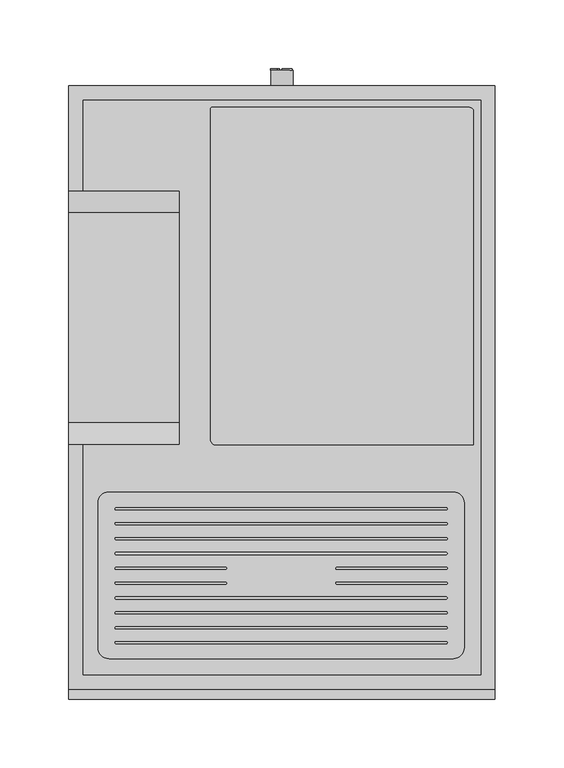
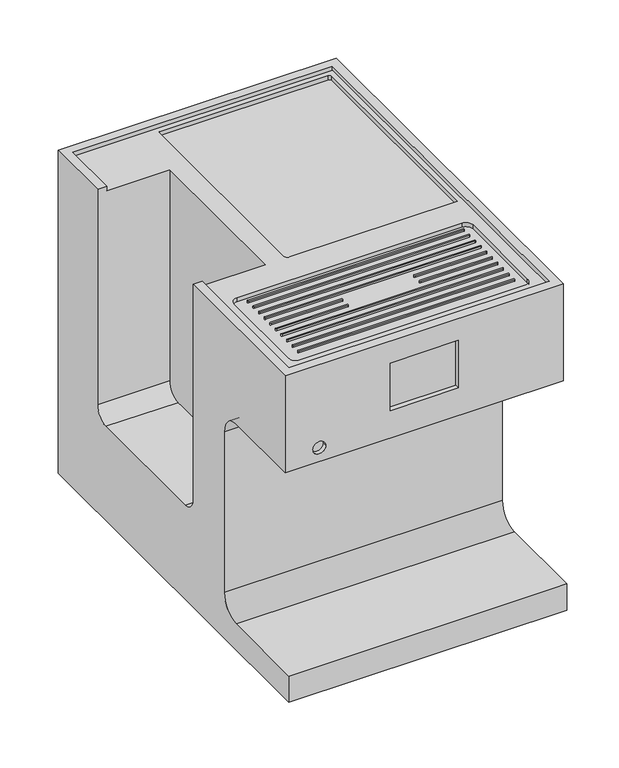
"""IFC4 building model written with IfcOpenShell, lengths in millimetres: proxy geometry, 11025070_NER_CM7350_OBSW : 29735020_NER_11025070_CM7350_OBSW."""

from ifc_helpers import new_model, si_unit, point, frame, frame_2d, origin, origin_with_axes, place, context, project, spatial, polyline, circle_curve, trimmed, segment, composite_curve, outline, extrude, source, transform, mapped, element, save
from ifc_brep_helpers import plane_surface, revolved_surface, advanced_brep


def specialty_equipment_0da02e5f(model_context):
    return source(origin(), model_context, "Body", "SolidModel", [
        advanced_brep(
        [(155.0, -438.3821149, 397.0), (155.0, -438.3821149, 282.4328861), (155.0, -343.8005135, 282.4328861), (155.0, -320.8005135, 259.4328861), (155.0, -320.8005135, 70.3993974), (155.0, -343.8005135, 47.3993974), (155.0, -445.5820312, 47.3993974), (155.0, -445.5820312, 16.3993974), (155.0, -297.5804642, 16.3993974), (155.0, -297.5804642, 391.7036314), (155.0, -295.1106834, 391.7036314), (155.0, -295.1106834, 16.3993974), (155.0, -18.5962654, 16.3993974), (155.0, -18.5962654, 391.7036314), (155.0, -16.6439936, 391.7036314), (155.0, -16.6439936, 16.3993974), (155.0, 0.0, 16.3993974), (155.0, 0.0, 397.0), (155.0, -274.1723402, 377.3844175), (155.0, -40.3820038, 377.3844175), (155.0, -40.3820038, 370.415576), (155.0, -274.1723402, 370.415576), (-155.0, 0.0, 397.0), (-155.0, 0.0, 16.3993974), (-155.0, -445.5820312, 16.3993974), (-155.0, -445.5820312, 47.3993974), (-155.0, -343.8005135, 47.3993974), (-155.0, -320.8005135, 70.3993974), (-155.0, -320.8005135, 259.4328861), (-155.0, -343.8005135, 282.4328861), (-155.0, -438.3821149, 282.4328861), (-155.0, -438.3821149, 397.0), (-155.0, -260.8993144, 397.0), (-155.0, -260.8993144, 143.1722611), (-155.0, -244.8993144, 127.1722611), (-155.0, -92.0598421, 127.1722611), (-155.0, -76.0598421, 143.1722611), (-155.0, -76.0598421, 397.0), (-72.7464893, 0.0, 16.3993974), (-72.7464893, -6.5820312, 16.3993974), (-71.7464893, -6.5820312, 16.3993974), (-71.7464893, 0.0, 16.3993974), (71.7464893, 0.0, 16.3993974), (71.7464893, -6.5820312, 16.3993974), (72.7464893, -6.5820312, 16.3993974), (72.7464893, 0.0, 16.3993974), (148.8000031, -16.6439936, 16.3993974), (148.8000031, -18.5962654, 16.3993974), (148.8000031, -295.1106834, 16.3993974), (148.8000031, -297.5804642, 16.3993974), (72.7464893, 0.0, 286.3395521), (-72.7464893, 0.0, 286.3395521), (-71.7464893, 0.0, 285.3395521), (71.7464893, 0.0, 285.3395521), (-67.2299957, 0.0, 280.3997633), (-67.2299957, 0.0, 242.6997663), (67.1699982, 0.0, 242.6997663), (67.1699982, 0.0, 280.3997633), (66.1699982, 0.0, 279.3997633), (66.1699982, 0.0, 243.6997663), (-66.2299957, 0.0, 243.6997663), (-66.2299957, 0.0, 279.3997633), (-145.0, -76.0598421, 397.0), (-145.0, -9.9540739, 397.0), (145.0, -9.9540739, 397.0), (145.0, -428.3821149, 397.0), (-145.0, -428.3821149, 397.0), (-145.0, -260.8993144, 397.0), (-109.871069, -438.3821149, 298.9499998), (-124.1509726, -438.3821149, 298.9499998), (-38.0, -438.3821149, 371.0), (38.0, -438.3821149, 371.0), (38.0, -438.3821149, 315.0), (-38.0, -438.3821149, 315.0), (-145.0, -428.3821149, 392.0), (145.0, -428.3821149, 392.0), (145.0, -9.9540739, 392.0), (-145.0, -9.9540739, 392.0), (-145.0, -76.0598421, 392.0), (-74.3005066, -76.0598421, 392.0), (-74.3005066, -260.8993144, 392.0), (-145.0, -260.8993144, 392.0), (-125.7733765, -295.1106834, 392.0), (124.609314, -295.1106834, 392.0), (132.609314, -303.1106834, 392.0), (132.609314, -408.1485367, 392.0), (124.609314, -416.1485367, 392.0), (-125.7733765, -416.1485367, 392.0), (-133.7733765, -408.1485367, 392.0), (-133.7733765, -303.1106834, 392.0), (-50.8837091, -15.6554565, 392.0), (136.3445587, -15.6554565, 392.0), (139.3445587, -18.6554565, 392.0), (139.3445587, -260.9074012, 392.0), (-47.8837091, -260.9074012, 392.0), (-51.8837091, -256.9074012, 392.0), (-51.8837091, -16.6554565, 392.0), (124.609314, -295.1106834, 387.0), (-125.7733765, -295.1106834, 387.0), (-133.7733765, -303.1106834, 387.0), (-133.7733765, -408.1485367, 387.0), (-125.7733765, -416.1485367, 387.0), (124.609314, -416.1485367, 387.0), (132.609314, -408.1485367, 387.0), (132.609314, -303.1106834, 387.0), (-67.2299957, -1.4311593, 280.3997633), (67.1699982, -1.4311593, 280.3997633), (67.1699982, -1.4311593, 242.6997663), (-67.2299957, -1.4311593, 242.6997663), (66.1699982, -1.4311593, 279.3997633), (-66.2299957, -1.4311593, 279.3997633), (-66.2299957, -1.4311593, 243.6997663), (66.1699982, -1.4311593, 243.6997663), (-74.3005066, -76.0598421, 143.1722611), (-74.3005066, -92.0598421, 127.1722611), (-74.3005066, -244.8993144, 127.1722611), (-74.3005066, -260.8993144, 143.1722611), (-124.1509726, -433.3821149, 298.9499998), (-109.871069, -433.3821149, 298.9499998), (136.3445587, -15.6554565, 387.0), (-50.8837091, -15.6554565, 387.0), (-51.8837091, -16.6554565, 387.0), (-51.8837091, -256.9074012, 387.0), (-47.8837091, -260.9074012, 387.0), (139.3445587, -260.9074012, 387.0), (139.3445587, -18.6554565, 387.0), (-72.7464893, -6.5820312, 286.3395521), (72.7464893, -6.5820312, 286.3395521), (71.7464893, -6.5820312, 285.3395521), (-71.7464893, -6.5820312, 285.3395521), (147.1000061, -40.3820038, 377.3844175), (147.1000061, -274.1723402, 377.3844175), (147.1000061, -274.1723402, 370.415576), (147.1000061, -40.3820038, 370.415576), (148.8000031, -295.1106834, 391.7036314), (148.8000031, -297.5804642, 391.7036314), (148.8000031, -16.6439936, 391.7036314), (148.8000031, -18.5962654, 391.7036314), (38.0, -433.3821149, 315.0), (-38.0, -433.3821149, 315.0), (-38.0, -433.3821149, 371.0), (38.0, -433.3821149, 371.0)],
        [
            (0, 1),
            (1, 2),
            (2, 3, circle_curve(frame((155.0, -343.8005135, 259.4328861), z_axis=(-1.0, 0.0, 0.0), x_axis=(0.0, 1.0, 0.0)), 23.0)),
            (3, 4),
            (4, 5, circle_curve(frame((155.0, -343.8005135, 70.3993974), z_axis=(-1.0, 0.0, 0.0), x_axis=(0.0, 1.0, 0.0)), 23.0)),
            (5, 6),
            (6, 7),
            (7, 8),
            (8, 9),
            (9, 10),
            (10, 11),
            (11, 12),
            (12, 13),
            (13, 14),
            (14, 15),
            (15, 16),
            (16, 17),
            (17, 0),
            (18, 19),
            (19, 20),
            (20, 21),
            (21, 18),
            (22, 23),
            (23, 24),
            (24, 25),
            (25, 26),
            (26, 27, circle_curve(frame((-155.0, -343.8005135, 70.3993974), z_axis=(1.0, 0.0, 0.0), x_axis=(0.0, 1.0, 0.0)), 23.0)),
            (27, 28),
            (28, 29, circle_curve(frame((-155.0, -343.8005135, 259.4328861), z_axis=(1.0, 0.0, 0.0), x_axis=(0.0, 1.0, 0.0)), 23.0)),
            (29, 30),
            (30, 31),
            (31, 32),
            (32, 33),
            (33, 34, circle_curve(frame((-155.0, -244.8993144, 143.1722611), z_axis=(1.0, 0.0, 0.0), x_axis=(0.0, 1.0, 0.0)), 16.0)),
            (34, 35),
            (35, 36, circle_curve(frame((-155.0, -92.0598421, 143.1722611), z_axis=(1.0, 0.0, 0.0), x_axis=(0.0, 1.0, 0.0)), 16.0)),
            (36, 37),
            (37, 22),
            (23, 38),
            (38, 39),
            (39, 40),
            (40, 41),
            (41, 42),
            (42, 43),
            (43, 44),
            (44, 45),
            (45, 16),
            (15, 46),
            (46, 47),
            (47, 12),
            (11, 48),
            (48, 49),
            (49, 8),
            (7, 24),
            (45, 50),
            (50, 51),
            (51, 38),
            (22, 17),
            (41, 52),
            (52, 53),
            (53, 42),
            (54, 55),
            (55, 56),
            (56, 57),
            (57, 54),
            (58, 59),
            (59, 60),
            (60, 61),
            (61, 58),
            (37, 62),
            (62, 63),
            (63, 64),
            (64, 65),
            (65, 66),
            (66, 67),
            (67, 32),
            (31, 0),
            (30, 1),
            (68, 69, circle_curve(frame((-117.0110208, -438.3821149, 298.9499998), z_axis=(0.0, 1.0, 0.0), x_axis=(1.0, 0.0, 0.0)), 7.1399518)),
            (69, 68, circle_curve(frame((-117.0110208, -438.3821149, 298.9499998), z_axis=(0.0, 1.0, 0.0), x_axis=(1.0, 0.0, 0.0)), 7.1399518)),
            (70, 71),
            (71, 72),
            (72, 73),
            (73, 70),
            (29, 2),
            (28, 3),
            (27, 4),
            (26, 5),
            (25, 6),
            (74, 75),
            (75, 76),
            (76, 77),
            (77, 78),
            (78, 79),
            (79, 80),
            (80, 81),
            (81, 74),
            (82, 83),
            (83, 84, circle_curve(frame((124.609314, -303.1106834, 392.0), z_axis=(0.0, 0.0, -1.0), x_axis=(1.0, 0.0, 0.0)), 8.0)),
            (84, 85),
            (85, 86, circle_curve(frame((124.609314, -408.1485367, 392.0), z_axis=(0.0, 0.0, -1.0), x_axis=(1.0, 0.0, 0.0)), 8.0)),
            (86, 87),
            (87, 88, circle_curve(frame((-125.7733765, -408.1485367, 392.0), z_axis=(0.0, 0.0, -1.0), x_axis=(1.0, 0.0, 0.0)), 8.0)),
            (88, 89),
            (89, 82, circle_curve(frame((-125.7733765, -303.1106834, 392.0), z_axis=(0.0, 0.0, -1.0), x_axis=(1.0, 0.0, 0.0)), 8.0)),
            (90, 91),
            (91, 92, circle_curve(frame((136.3445587, -18.6554565, 392.0), z_axis=(0.0, 0.0, -1.0), x_axis=(1.0, 0.0, 0.0)), 3.0)),
            (92, 93),
            (93, 94),
            (94, 95, circle_curve(frame((-47.8837091, -256.9074012, 392.0), z_axis=(0.0, 0.0, -1.0), x_axis=(1.0, 0.0, 0.0)), 4.0)),
            (95, 96),
            (96, 90, circle_curve(frame((-50.8837091, -16.6554565, 392.0), z_axis=(0.0, 0.0, -1.0), x_axis=(1.0, 0.0, 0.0)), 1.0)),
            (74, 66),
            (65, 75),
            (64, 76),
            (63, 77),
            (81, 67),
            (62, 78),
            (97, 98),
            (98, 99, circle_curve(frame((-125.7733765, -303.1106834, 387.0), z_axis=(0.0, 0.0, 1.0), x_axis=(1.0, 0.0, 0.0)), 8.0)),
            (99, 100),
            (100, 101, circle_curve(frame((-125.7733765, -408.1485367, 387.0), z_axis=(0.0, 0.0, 1.0), x_axis=(1.0, 0.0, 0.0)), 8.0)),
            (101, 102),
            (102, 103, circle_curve(frame((124.609314, -408.1485367, 387.0), z_axis=(0.0, 0.0, 1.0), x_axis=(1.0, 0.0, 0.0)), 8.0)),
            (103, 104),
            (104, 97, circle_curve(frame((124.609314, -303.1106834, 387.0), z_axis=(0.0, 0.0, 1.0), x_axis=(1.0, 0.0, 0.0)), 8.0)),
            (97, 83),
            (82, 98),
            (89, 99),
            (88, 100),
            (87, 101),
            (86, 102),
            (85, 103),
            (84, 104),
            (105, 106),
            (106, 107),
            (107, 108),
            (108, 105),
            (109, 110),
            (110, 111),
            (111, 112),
            (112, 109),
            (108, 55),
            (54, 105),
            (107, 56),
            (106, 57),
            (113, 114, circle_curve(frame((-74.3005066, -92.0598421, 143.1722611), z_axis=(-1.0, 0.0, 0.0), x_axis=(0.0, 1.0, 0.0)), 16.0)),
            (114, 115),
            (115, 116, circle_curve(frame((-74.3005066, -244.8993144, 143.1722611), z_axis=(-1.0, 0.0, 0.0), x_axis=(0.0, 1.0, 0.0)), 16.0)),
            (116, 80),
            (79, 113),
            (116, 33),
            (115, 34),
            (114, 35),
            (113, 36),
            (117, 118, circle_curve(frame((-117.0110208, -433.3821149, 298.9499998), z_axis=(0.0, -1.0, 0.0), x_axis=(1.0, 0.0, 0.0)), 7.1399518)),
            (118, 117, circle_curve(frame((-117.0110208, -433.3821149, 298.9499998), z_axis=(0.0, -1.0, 0.0), x_axis=(1.0, 0.0, 0.0)), 7.1399518)),
            (117, 69),
            (68, 118),
            (119, 120),
            (120, 121, circle_curve(frame((-50.8837091, -16.6554565, 387.0), z_axis=(0.0, 0.0, 1.0), x_axis=(1.0, 0.0, 0.0)), 1.0)),
            (121, 122),
            (122, 123, circle_curve(frame((-47.8837091, -256.9074012, 387.0), z_axis=(0.0, 0.0, 1.0), x_axis=(1.0, 0.0, 0.0)), 4.0)),
            (123, 124),
            (124, 125),
            (125, 119, circle_curve(frame((136.3445587, -18.6554565, 387.0), z_axis=(0.0, 0.0, 1.0), x_axis=(1.0, 0.0, 0.0)), 3.0)),
            (119, 91),
            (90, 120),
            (96, 121),
            (95, 122),
            (94, 123),
            (93, 124),
            (92, 125),
            (126, 127),
            (127, 44),
            (43, 128),
            (128, 129),
            (129, 40),
            (39, 126),
            (51, 126),
            (129, 52),
            (128, 53),
            (127, 50),
            (112, 59),
            (58, 109),
            (111, 60),
            (110, 61),
            (130, 131),
            (131, 132),
            (132, 133),
            (133, 130),
            (130, 19),
            (18, 131),
            (21, 132),
            (20, 133),
            (134, 135),
            (135, 49),
            (48, 134),
            (46, 136),
            (136, 137),
            (137, 47),
            (134, 10),
            (9, 135),
            (14, 136),
            (13, 137),
            (138, 139),
            (139, 73),
            (72, 138),
            (140, 141),
            (141, 71),
            (70, 140),
            (139, 140),
            (141, 138),
        ],
        [
            plane_surface(frame((155.0, -438.3821149, 397.0), z_axis=(1.0, 0.0, 0.0), x_axis=(0.0, 0.0, -1.0))),
            plane_surface(frame((-155.0, -438.3821149, 397.0), z_axis=(-1.0, 0.0, 0.0), x_axis=(0.0, 0.0, 1.0))),
            plane_surface(frame((155.0, -445.5820312, 16.3993974), z_axis=(0.0, 0.0, -1.0), x_axis=(-1.0, 0.0, 0.0))),
            plane_surface(frame((155.0, 0.0, 16.3993974), z_axis=(0.0, 1.0, 0.0), x_axis=(-1.0, 0.0, 0.0))),
            plane_surface(frame((155.0, 0.0, 397.0), z_axis=(0.0, 0.0, 1.0), x_axis=(-1.0, 0.0, 0.0))),
            plane_surface(frame((155.0, -438.3821149, 397.0), z_axis=(0.0, -1.0, 0.0), x_axis=(-1.0, 0.0, 0.0))),
            plane_surface(frame((155.0, -438.3821149, 282.4328861), z_axis=(0.0, 0.0, -1.0), x_axis=(-1.0, 0.0, 0.0))),
            revolved_surface(polyline([(-155.0, -320.8005135, 259.4328861), (155.0, -320.8005135, 259.4328861)]), (-155.0, -343.8005135, 259.4328861), (-1.0, 0.0, 0.0)),
            plane_surface(frame((155.0, -320.8005135, 259.4328861), z_axis=(0.0, -1.0, 0.0), x_axis=(-1.0, 0.0, 0.0))),
            revolved_surface(polyline([(-155.0, -320.8005135, 70.3993974), (155.0, -320.8005135, 70.3993974)]), (-155.0, -343.8005135, 70.3993974), (-1.0, 0.0, 0.0)),
            plane_surface(frame((155.0, -343.8005135, 47.3993974), z_axis=(0.0, 0.0, 1.0), x_axis=(-1.0, 0.0, 0.0))),
            plane_surface(frame((155.0, -445.5820312, 47.3993974), z_axis=(0.0, -1.0, 0.0), x_axis=(-1.0, 0.0, 0.0))),
            plane_surface(frame((149.1561824, -428.3821149, 392.0), z_axis=(0.0, 0.0, 1.0), x_axis=(-1.0, 0.0, 0.0))),
            plane_surface(frame((-145.0, -428.3821149, 397.0), z_axis=(0.0, 1.0, 0.0), x_axis=(0.0, 0.0, -1.0))),
            plane_surface(frame((145.0, -428.3821149, 397.0), z_axis=(-1.0, 0.0, 0.0), x_axis=(0.0, 0.0, -1.0))),
            plane_surface(frame((145.0, -9.9540739, 397.0), z_axis=(0.0, -1.0, 0.0), x_axis=(0.0, 0.0, -1.0))),
            plane_surface(frame((-145.0, -9.9540739, 397.0), z_axis=(1.0, 0.0, 0.0), x_axis=(0.0, 0.0, -1.0))),
            plane_surface(frame((-131.2630187, -295.1106834, 387.0), z_axis=(0.0, 0.0, 1.0), x_axis=(1.0, 0.0, 0.0))),
            plane_surface(frame((124.609314, -295.1106834, 392.0), z_axis=(0.0, -1.0, 0.0), x_axis=(0.0, 0.0, -1.0))),
            revolved_surface(polyline([(-117.7733765, -303.1106834, 392.0), (-117.7733765, -303.1106834, 387.0)]), (-125.7733765, -303.1106834, 387.0), (0.0, 0.0, 1.0)),
            plane_surface(frame((-133.7733765, -303.1106834, 392.0), z_axis=(1.0, 0.0, 0.0), x_axis=(0.0, 0.0, -1.0))),
            revolved_surface(polyline([(-117.7733765, -408.1485367, 392.0), (-117.7733765, -408.1485367, 387.0)]), (-125.7733765, -408.1485367, 387.0), (0.0, 0.0, 1.0)),
            plane_surface(frame((-125.7733765, -416.1485367, 392.0), z_axis=(0.0, 1.0, 0.0), x_axis=(0.0, 0.0, -1.0))),
            revolved_surface(polyline([(132.60931399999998, -408.1485367, 392.0), (132.60931399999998, -408.1485367, 387.0)]), (124.609314, -408.1485367, 387.0), (0.0, 0.0, 1.0)),
            plane_surface(frame((132.609314, -408.1485367, 392.0), z_axis=(-1.0, 0.0, 0.0), x_axis=(0.0, 0.0, -1.0))),
            revolved_surface(polyline([(132.60931399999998, -303.1106834, 392.0), (132.60931399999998, -303.1106834, 387.0)]), (124.609314, -303.1106834, 387.0), (0.0, 0.0, 1.0)),
            plane_surface(frame((-67.2299957, -1.4311593, 235.6799621), z_axis=(0.0, 1.0, 0.0), x_axis=(0.0, 0.0, -1.0))),
            plane_surface(frame((-67.2299957, -1.4311593, 280.3997633), z_axis=(1.0, 0.0, 0.0), x_axis=(0.0, 1.0, 0.0))),
            plane_surface(frame((-67.2299957, -1.4311593, 242.6997663), z_axis=(0.0, 0.0, 1.0), x_axis=(0.0, 1.0, 0.0))),
            plane_surface(frame((67.1699982, -1.4311593, 242.6997663), z_axis=(-1.0, 0.0, 0.0), x_axis=(0.0, 1.0, 0.0))),
            plane_surface(frame((67.1699982, -1.4311593, 280.3997633), z_axis=(0.0, 0.0, -1.0), x_axis=(0.0, 1.0, 0.0))),
            plane_surface(frame((-74.3005066, -260.8993144, 397.0), z_axis=(-1.0, 0.0, 0.0), x_axis=(0.0, 0.0, -1.0))),
            plane_surface(frame((-74.3005066, -260.8993144, 397.0), z_axis=(0.0, 1.0, 0.0), x_axis=(-1.0, 0.0, 0.0))),
            revolved_surface(polyline([(-74.3005066, -228.8993144, 143.1722611), (-155.0, -228.8993144, 143.1722611)]), (-184.0228521, -244.8993144, 143.1722611), (1.0, 0.0, 0.0)),
            plane_surface(frame((-74.3005066, -244.8993144, 127.1722611), z_axis=(0.0, 0.0, 1.0), x_axis=(-1.0, 0.0, 0.0))),
            revolved_surface(polyline([(-74.3005066, -76.0598421, 143.1722611), (-155.0, -76.0598421, 143.1722611)]), (-184.0228521, -92.0598421, 143.1722611), (1.0, 0.0, 0.0)),
            plane_surface(frame((-74.3005066, -76.0598421, 143.1722611), z_axis=(0.0, -1.0, 0.0), x_axis=(-1.0, 0.0, 0.0))),
            plane_surface(frame((-109.871069, -433.3821149, 298.9499998), z_axis=(0.0, -1.0, 0.0), x_axis=(0.0, 0.0, -1.0))),
            revolved_surface(polyline([(-109.87106899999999, -438.3821149, 298.9499998), (-109.87106899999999, -433.3821149, 298.9499998)]), (-117.0110208, -433.3821149, 298.9499998), (0.0, -1.0, 0.0)),
            plane_surface(frame((-51.7409897, -15.6554565, 387.0), z_axis=(0.0, 0.0, 1.0), x_axis=(1.0, 0.0, 0.0))),
            plane_surface(frame((136.3445587, -15.6554565, 397.0), z_axis=(0.0, -1.0, 0.0), x_axis=(0.0, 0.0, -1.0))),
            revolved_surface(polyline([(-49.8837091, -16.6554565, 392.0), (-49.8837091, -16.6554565, 387.0)]), (-50.8837091, -16.6554565, 387.0), (0.0, 0.0, 1.0)),
            plane_surface(frame((-51.8837091, -16.6554565, 397.0), z_axis=(1.0, 0.0, 0.0), x_axis=(0.0, 0.0, -1.0))),
            revolved_surface(polyline([(-43.8837091, -256.9074012, 392.0), (-43.8837091, -256.9074012, 387.0)]), (-47.8837091, -256.9074012, 387.0), (0.0, 0.0, 1.0)),
            plane_surface(frame((-47.8837091, -260.9074012, 397.0), z_axis=(0.0, 1.0, 0.0), x_axis=(0.0, 0.0, -1.0))),
            plane_surface(frame((139.3445587, -260.9074012, 397.0), z_axis=(-1.0, 0.0, 0.0), x_axis=(0.0, 0.0, -1.0))),
            revolved_surface(polyline([(139.3445587, -18.6554565, 392.0), (139.3445587, -18.6554565, 387.0)]), (136.3445587, -18.6554565, 387.0), (0.0, 0.0, 1.0)),
            plane_surface(frame((-72.7464893, -6.5820312, 286.3395521), z_axis=(0.0, 1.0, 0.0), x_axis=(0.0, 0.0, -1.0))),
            plane_surface(frame((-72.7464893, -6.5820312, 286.3395521), z_axis=(1.0, 0.0, 0.0), x_axis=(0.0, 1.0, 0.0))),
            plane_surface(frame((-71.7464893, -6.5820312, 16.3993974), z_axis=(-1.0, 0.0, 0.0), x_axis=(0.0, 1.0, 0.0))),
            plane_surface(frame((-71.7464893, -6.5820312, 285.3395521), z_axis=(0.0, 0.0, 1.0), x_axis=(0.0, 1.0, 0.0))),
            plane_surface(frame((71.7464893, -6.5820312, 285.3395521), z_axis=(1.0, 0.0, 0.0), x_axis=(0.0, 1.0, 0.0))),
            plane_surface(frame((72.7464893, -6.5820312, 16.3993974), z_axis=(-1.0, 0.0, 0.0), x_axis=(0.0, 1.0, 0.0))),
            plane_surface(frame((72.7464893, -6.5820312, 286.3395521), z_axis=(0.0, 0.0, -1.0), x_axis=(0.0, 1.0, 0.0))),
            plane_surface(frame((66.1699982, -1.4311593, 279.3997633), z_axis=(1.0, 0.0, 0.0), x_axis=(0.0, 1.0, 0.0))),
            plane_surface(frame((66.1699982, -1.4311593, 243.6997663), z_axis=(0.0, 0.0, -1.0), x_axis=(0.0, 1.0, 0.0))),
            plane_surface(frame((-66.2299957, -1.4311593, 243.6997663), z_axis=(-1.0, 0.0, 0.0), x_axis=(0.0, 1.0, 0.0))),
            plane_surface(frame((-66.2299957, -1.4311593, 279.3997633), z_axis=(0.0, 0.0, 1.0), x_axis=(0.0, 1.0, 0.0))),
            plane_surface(frame((147.1000061, -274.1723402, 377.3844175), z_axis=(1.0, 0.0, 0.0), x_axis=(0.0, 1.0, 0.0))),
            plane_surface(frame((190.8403148, -40.3820038, 377.3844175), z_axis=(0.0, 0.0, -1.0), x_axis=(-1.0, 0.0, 0.0))),
            plane_surface(frame((190.8403148, -274.1723402, 377.3844175), z_axis=(0.0, 1.0, 0.0), x_axis=(-1.0, 0.0, 0.0))),
            plane_surface(frame((190.8403148, -274.1723402, 370.415576), z_axis=(0.0, 0.0, 1.0), x_axis=(-1.0, 0.0, 0.0))),
            plane_surface(frame((190.8403148, -40.3820038, 370.415576), z_axis=(0.0, -1.0, 0.0), x_axis=(-1.0, 0.0, 0.0))),
            plane_surface(frame((148.8000031, -297.5804642, 391.7036314), z_axis=(1.0, 0.0, 0.0), x_axis=(0.0, 1.0, 0.0))),
            plane_surface(frame((250.0, -295.1106834, 391.7036314), z_axis=(0.0, 0.0, -1.0), x_axis=(-1.0, 0.0, 0.0))),
            plane_surface(frame((250.0, -297.5804642, 391.7036314), z_axis=(0.0, 1.0, 0.0), x_axis=(-1.0, 0.0, 0.0))),
            plane_surface(frame((250.0, -295.1106834, 16.3993974), z_axis=(0.0, -1.0, 0.0), x_axis=(-1.0, 0.0, 0.0))),
            plane_surface(frame((250.0, -16.6439936, 16.3993974), z_axis=(0.0, -1.0, 0.0), x_axis=(-1.0, 0.0, 0.0))),
            plane_surface(frame((250.0, -16.6439936, 391.7036314), z_axis=(0.0, 0.0, -1.0), x_axis=(-1.0, 0.0, 0.0))),
            plane_surface(frame((250.0, -18.5962654, 391.7036314), z_axis=(0.0, 1.0, 0.0), x_axis=(-1.0, 0.0, 0.0))),
            plane_surface(frame((-38.0, -445.3283722, 315.0), z_axis=(0.0, 0.0, 1.0), x_axis=(0.0, 1.0, 0.0))),
            plane_surface(frame((38.0, -445.3283722, 371.0), z_axis=(0.0, 0.0, -1.0), x_axis=(0.0, 1.0, 0.0))),
            plane_surface(frame((-38.0, -445.3283722, 371.0), z_axis=(1.0, 0.0, 0.0), x_axis=(0.0, 1.0, 0.0))),
            plane_surface(frame((38.0, -445.3283722, 315.0), z_axis=(-1.0, 0.0, 0.0), x_axis=(0.0, 1.0, 0.0))),
            plane_surface(frame((-38.0, -433.3821149, 371.0), z_axis=(0.0, -1.0, 0.0), x_axis=(1.0, 0.0, 0.0))),
        ],
        [
            (0, [[1, 2, 3, 4, 5, 6, 7, 8, 9, 10, 11, 12, 13, 14, 15, 16, 17, 18], [19, 20, 21, 22]]),
            (1, [[23, 24, 25, 26, 27, 28, 29, 30, 31, 32, 33, 34, 35, 36, 37, 38]]),
            (2, [[-24, 39, 40, 41, 42, 43, 44, 45, 46, 47, -16, 48, 49, 50, -12, 51, 52, 53, -8, 54]]),
            (3, [[-17, -47, 55, 56, 57, -39, -23, 58]]),
            (3, [[-43, 59, 60, 61], [62, 63, 64, 65]]),
            (3, [[66, 67, 68, 69]]),
            (4, [[-18, -58, -38, 70, 71, 72, 73, 74, 75, 76, -32, 77]]),
            (5, [[-1, -77, -31, 78], [79, 80], [81, 82, 83, 84]]),
            (6, [[-2, -78, -30, 85]]),
            (7, [[-3, -85, -29, 86]]),
            (8, [[-4, -86, -28, 87]]),
            (9, [[-5, -87, -27, 88]]),
            (10, [[-6, -88, -26, 89]]),
            (11, [[-7, -89, -25, -54]]),
            (12, [[90, 91, 92, 93, 94, 95, 96, 97], [98, 99, 100, 101, 102, 103, 104, 105], [106, 107, 108, 109, 110, 111, 112]]),
            (13, [[-90, 113, -74, 114]]),
            (14, [[-91, -114, -73, 115]]),
            (15, [[-92, -115, -72, 116]]),
            (16, [[-113, -97, 117, -75]]),
            (16, [[-116, -71, 118, -93]]),
            (17, [[119, 120, 121, 122, 123, 124, 125, 126]]),
            (18, [[-119, 127, -98, 128]]),
            (19, [[-120, -128, -105, 129]]),
            (20, [[-121, -129, -104, 130]]),
            (21, [[-122, -130, -103, 131]]),
            (22, [[-123, -131, -102, 132]]),
            (23, [[-124, -132, -101, 133]]),
            (24, [[-125, -133, -100, 134]]),
            (25, [[-126, -134, -99, -127]]),
            (26, [[135, 136, 137, 138], [139, 140, 141, 142]]),
            (27, [[-138, 143, -62, 144]]),
            (28, [[-137, 145, -63, -143]]),
            (29, [[-136, 146, -64, -145]]),
            (30, [[-135, -144, -65, -146]]),
            (31, [[147, 148, 149, 150, -95, 151]]),
            (32, [[-150, 152, -33, -76, -117, -96]]),
            (33, [[-149, 153, -34, -152]]),
            (34, [[-148, 154, -35, -153]]),
            (35, [[-147, 155, -36, -154]]),
            (36, [[-151, -94, -118, -70, -37, -155]]),
            (37, [[156, 157]]),
            (38, [[-156, 158, -79, 159]]),
            (38, [[-157, -159, -80, -158]]),
            (39, [[160, 161, 162, 163, 164, 165, 166]]),
            (40, [[-160, 167, -106, 168]]),
            (41, [[-161, -168, -112, 169]]),
            (42, [[-162, -169, -111, 170]]),
            (43, [[-163, -170, -110, 171]]),
            (44, [[-164, -171, -109, 172]]),
            (45, [[-165, -172, -108, 173]]),
            (46, [[-166, -173, -107, -167]]),
            (47, [[174, 175, -45, 176, 177, 178, -41, 179]]),
            (48, [[-179, -40, -57, 180]]),
            (49, [[-178, 181, -59, -42]]),
            (50, [[-177, 182, -60, -181]]),
            (51, [[-176, -44, -61, -182]]),
            (52, [[-175, 183, -55, -46]]),
            (53, [[-174, -180, -56, -183]]),
            (54, [[-142, 184, -66, 185]]),
            (55, [[-141, 186, -67, -184]]),
            (56, [[-140, 187, -68, -186]]),
            (57, [[-139, -185, -69, -187]]),
            (58, [[188, 189, 190, 191]]),
            (59, [[-188, 192, -19, 193]]),
            (60, [[-189, -193, -22, 194]]),
            (61, [[-190, -194, -21, 195]]),
            (62, [[-191, -195, -20, -192]]),
            (63, [[196, 197, -52, 198]]),
            (63, [[199, 200, 201, -49]]),
            (64, [[-196, 202, -10, 203]]),
            (65, [[-197, -203, -9, -53]]),
            (66, [[-198, -51, -11, -202]]),
            (67, [[-199, -48, -15, 204]]),
            (68, [[-200, -204, -14, 205]]),
            (69, [[-201, -205, -13, -50]]),
            (70, [[206, 207, -83, 208]]),
            (71, [[209, 210, -81, 211]]),
            (72, [[212, -211, -84, -207]]),
            (73, [[213, -208, -82, -210]]),
            (74, [[-209, -212, -206, -213]]),
        ],
    ),
        extrude(outline(composite_curve([segment(trimmed(circle_curve(frame_2d((-111.6838977, -47.0643921)), 1.0), [point((-111.6838977, -46.0643921))], [point((-110.6838977, -47.0643921))], False, "CARTESIAN"), True, "CONTINUOUS"), segment(polyline([(-110.6838977, -47.0643921), (-110.6838977, -68.8996887)]), True, "CONTINUOUS"), segment(trimmed(circle_curve(frame_2d((-111.6838977, -68.8996887)), 1.0), [point((-110.6838977, -68.8996887))], [point((-111.6838977, -69.8996887))], False, "CARTESIAN"), True, "CONTINUOUS"), segment(polyline([(-111.6838977, -69.8996887), (-126.8176422, -69.8996887)]), True, "CONTINUOUS"), segment(trimmed(circle_curve(frame_2d((-126.8176422, -68.8996887)), 1.0), [point((-126.8176422, -69.8996887))], [point((-127.8176422, -68.8996887))], False, "CARTESIAN"), True, "CONTINUOUS"), segment(polyline([(-127.8176422, -68.8996887), (-127.8176422, -47.0643921)]), True, "CONTINUOUS"), segment(trimmed(circle_curve(frame_2d((-126.8176422, -47.0643921)), 1.0), [point((-127.8176422, -47.0643921))], [point((-126.8176422, -46.0643921))], False, "CARTESIAN"), True, "CONTINUOUS"), segment(polyline([(-126.8176422, -46.0643921), (-111.6838977, -46.0643921)]), True, "CONTINUOUS")], self_intersect=False)), origin_with_axes(), (0.0, 0.0, 1.0), 3.6999998),
        extrude(outline(composite_curve([segment(polyline([(89.6808126, -46.0643921), (104.8176422, -46.0643921)]), True, "CONTINUOUS"), segment(trimmed(circle_curve(frame_2d((104.8176422, -47.0643921)), 1.0), [point((104.8176422, -46.0643921))], [point((105.8176422, -47.0643921))], False, "CARTESIAN"), True, "CONTINUOUS"), segment(polyline([(105.8176422, -47.0643921), (105.8176422, -68.8996887)]), True, "CONTINUOUS"), segment(trimmed(circle_curve(frame_2d((104.8176422, -68.8996887)), 1.0), [point((105.8176422, -68.8996887))], [point((104.8176422, -69.8996887))], False, "CARTESIAN"), True, "CONTINUOUS"), segment(polyline([(104.8176422, -69.8996887), (89.6808126, -69.8996887)]), True, "CONTINUOUS"), segment(trimmed(circle_curve(frame_2d((89.6808126, -68.8996887)), 1.0), [point((89.6808126, -69.8996887))], [point((88.6808126, -68.8996887))], False, "CARTESIAN"), True, "CONTINUOUS"), segment(polyline([(88.6808126, -68.8996887), (88.6808126, -47.0643921)]), True, "CONTINUOUS"), segment(trimmed(circle_curve(frame_2d((89.6808126, -47.0643921)), 1.0), [point((88.6808126, -47.0643921))], [point((89.6808126, -46.0643921))], False, "CARTESIAN"), True, "CONTINUOUS")], self_intersect=False)), origin_with_axes(), (0.0, 0.0, 1.0), 3.6999998),
        extrude(outline(composite_curve([segment(polyline([(112.2548065, -289.4182587), (127.87898, -289.4182587)]), True, "CONTINUOUS"), segment(trimmed(circle_curve(frame_2d((127.87898, -290.4182587)), 1.0), [point((127.87898, -289.4182587))], [point((128.87898, -290.4182587))], False, "CARTESIAN"), True, "CONTINUOUS"), segment(polyline([(128.87898, -290.4182587), (128.87898, -312.0491112)]), True, "CONTINUOUS"), segment(trimmed(circle_curve(frame_2d((127.87898, -312.0491112)), 1.0), [point((128.87898, -312.0491112))], [point((127.87898, -313.0491112))], False, "CARTESIAN"), True, "CONTINUOUS"), segment(polyline([(127.87898, -313.0491112), (112.2548065, -313.0491112)]), True, "CONTINUOUS"), segment(trimmed(circle_curve(frame_2d((112.2548065, -312.0491112)), 1.0), [point((112.2548065, -313.0491112))], [point((111.2548065, -312.0491112))], False, "CARTESIAN"), True, "CONTINUOUS"), segment(polyline([(111.2548065, -312.0491112), (111.2548065, -290.4182587)]), True, "CONTINUOUS"), segment(trimmed(circle_curve(frame_2d((112.2548065, -290.4182587)), 1.0), [point((111.2548065, -290.4182587))], [point((112.2548065, -289.4182587))], False, "CARTESIAN"), True, "CONTINUOUS")], self_intersect=False)), origin_with_axes(), (0.0, 0.0, 1.0), 3.6999998),
        extrude(outline(composite_curve([segment(trimmed(circle_curve(frame_2d((-112.509615, -290.4182587)), 1.0), [point((-112.509615, -289.4182587))], [point((-111.509615, -290.4182587))], False, "CARTESIAN"), True, "CONTINUOUS"), segment(polyline([(-111.509615, -290.4182587), (-111.509615, -312.0491112)]), True, "CONTINUOUS"), segment(trimmed(circle_curve(frame_2d((-112.509615, -312.0491112)), 1.0), [point((-111.509615, -312.0491112))], [point((-112.509615, -313.0491112))], False, "CARTESIAN"), True, "CONTINUOUS"), segment(polyline([(-112.509615, -313.0491112), (-128.3469722, -313.0491112)]), True, "CONTINUOUS"), segment(trimmed(circle_curve(frame_2d((-128.3469722, -312.0491112)), 1.0), [point((-128.3469722, -313.0491112))], [point((-129.3469722, -312.0491112))], False, "CARTESIAN"), True, "CONTINUOUS"), segment(polyline([(-129.3469722, -312.0491112), (-129.3469722, -290.4182587)]), True, "CONTINUOUS"), segment(trimmed(circle_curve(frame_2d((-128.3469722, -290.4182587)), 1.0), [point((-129.3469722, -290.4182587))], [point((-128.3469722, -289.4182587))], False, "CARTESIAN"), True, "CONTINUOUS"), segment(polyline([(-128.3469722, -289.4182587), (-112.509615, -289.4182587)]), True, "CONTINUOUS")], self_intersect=False)), origin_with_axes(), (0.0, 0.0, 1.0), 3.6999998),
        extrude(outline(composite_curve([segment(polyline([(-118.2694755, -381.4050159), (-97.8140391, -381.4050159)]), True, "CONTINUOUS"), segment(trimmed(circle_curve(frame_2d((-97.8140391, -386.4050159)), 5.0), [point((-97.8140391, -381.4050159))], [point((-92.8140391, -386.4050159))], False, "CARTESIAN"), True, "CONTINUOUS"), segment(polyline([(-92.8140391, -386.4050159), (-92.8140391, -388.8400154)]), True, "CONTINUOUS"), segment(trimmed(circle_curve(frame_2d((-97.8140391, -388.8400154)), 5.0), [point((-92.8140391, -388.8400154))], [point((-97.8140391, -393.8400154))], False, "CARTESIAN"), True, "CONTINUOUS"), segment(polyline([(-97.8140391, -393.8400154), (-118.2694755, -393.8400154)]), True, "CONTINUOUS"), segment(trimmed(circle_curve(frame_2d((-118.2694755, -388.8400154)), 5.0), [point((-118.2694755, -393.8400154))], [point((-123.2694755, -388.8400154))], False, "CARTESIAN"), True, "CONTINUOUS"), segment(polyline([(-123.2694755, -388.8400154), (-123.2694755, -386.4050159)]), True, "CONTINUOUS"), segment(trimmed(circle_curve(frame_2d((-118.2694755, -386.4050159)), 5.0), [point((-123.2694755, -386.4050159))], [point((-118.2694755, -381.4050159))], False, "CARTESIAN"), True, "CONTINUOUS")], self_intersect=False)), origin_with_axes(), (0.0, 0.0, 1.0), 3.6999998),
        extrude(outline(composite_curve([segment(polyline([(124.25, -32.2840881), (114.25, -32.2840881)]), True, "CONTINUOUS"), segment(trimmed(circle_curve(frame_2d((114.25, -29.0820313)), 3.2020569), [point((114.25, -32.2840881))], [point((114.25, -25.8799744))], False, "CARTESIAN"), True, "CONTINUOUS"), segment(polyline([(114.25, -25.8799744), (124.25, -25.8799744)]), True, "CONTINUOUS"), segment(trimmed(circle_curve(frame_2d((124.25, -29.0820313)), 3.2020569), [point((124.25, -25.8799744))], [point((124.25, -32.2840881))], False, "CARTESIAN"), True, "CONTINUOUS")], self_intersect=False)), origin_with_axes(), (0.0, 0.0, 1.0), 3.6999998),
        extrude(outline(composite_curve([segment(trimmed(circle_curve(frame_2d((118.2694755, -386.4050159)), 5.0), [point((118.2694755, -381.4050159))], [point((123.2694755, -386.4050159))], False, "CARTESIAN"), True, "CONTINUOUS"), segment(polyline([(123.2694755, -386.4050159), (123.2694755, -388.8400154)]), True, "CONTINUOUS"), segment(trimmed(circle_curve(frame_2d((118.2694755, -388.8400154)), 5.0), [point((123.2694755, -388.8400154))], [point((118.2694755, -393.8400154))], False, "CARTESIAN"), True, "CONTINUOUS"), segment(polyline([(118.2694755, -393.8400154), (97.8140391, -393.8400154)]), True, "CONTINUOUS"), segment(trimmed(circle_curve(frame_2d((97.8140391, -388.8400154)), 5.0), [point((97.8140391, -393.8400154))], [point((92.8140391, -388.8400154))], False, "CARTESIAN"), True, "CONTINUOUS"), segment(polyline([(92.8140391, -388.8400154), (92.8140391, -386.4050159)]), True, "CONTINUOUS"), segment(trimmed(circle_curve(frame_2d((97.8140391, -386.4050159)), 5.0), [point((92.8140391, -386.4050159))], [point((97.8140391, -381.4050159))], False, "CARTESIAN"), True, "CONTINUOUS"), segment(polyline([(97.8140391, -381.4050159), (118.2694755, -381.4050159)]), True, "CONTINUOUS")], self_intersect=False)), origin_with_axes(), (0.0, 0.0, 1.0), 3.6999998),
        extrude(outline(composite_curve([segment(trimmed(circle_curve(frame_2d((-124.25, -29.0820313)), 3.2020569), [point((-124.25, -32.2840881))], [point((-124.25, -25.8799744))], False, "CARTESIAN"), True, "CONTINUOUS"), segment(polyline([(-124.25, -25.8799744), (-114.25, -25.8799744)]), True, "CONTINUOUS"), segment(trimmed(circle_curve(frame_2d((-114.25, -29.0820313)), 3.2020569), [point((-114.25, -25.8799744))], [point((-114.25, -32.2840881))], False, "CARTESIAN"), True, "CONTINUOUS"), segment(polyline([(-114.25, -32.2840881), (-124.25, -32.2840881)]), True, "CONTINUOUS")], self_intersect=False)), origin_with_axes(), (0.0, 0.0, 1.0), 3.6999998),
        extrude(outline(polyline([(11.3993974, 7.3772603), (21.4450284, 7.3772603), (21.4450284, 0.156963), (20.1893246, 0.156963), (20.1893246, 6.1215564), (17.2070279, 6.1215564), (17.2070279, 0.470889), (15.951324, 0.470889), (15.951324, 6.1215564), (12.6551013, 6.1215564), (12.6551013, 0.0), (11.3993974, 0.0), (11.3993974, 7.3772603)])), frame((0.0, 11.4037346, 0.0), z_axis=(0.0, 1.0, 0.0), x_axis=(0.0, 0.0, 1.0)), (0.0, 0.0, 1.0), 1.0),
        extrude(outline(polyline([(11.3993974, -1.8835558), (21.4450284, -1.8835558), (21.4450284, -3.1392597), (12.6551013, -3.1392597), (12.6551013, -8.1620752), (11.3993974, -8.1620752), (11.3993974, -1.8835558)])), frame((0.0, 11.4037346, 0.0), z_axis=(0.0, 1.0, 0.0), x_axis=(0.0, 0.0, 1.0)), (0.0, 0.0, 1.0), 1.0),
        extrude(outline(composite_curve([segment(trimmed(circle_curve(frame_2d((16.3993974, 0.0)), 8.0), [point((16.3993974, -8.0))], [point((16.3993974, 8.0))], False, "CARTESIAN"), True, "CONTINUOUS"), segment(trimmed(circle_curve(frame_2d((16.3993974, 0.0)), 8.0), [point((16.3993974, 8.0))], [point((16.3993974, -8.0))], False, "CARTESIAN"), True, "CONTINUOUS")], self_intersect=False)), frame((0.0, -18.5962654, 0.0), z_axis=(0.0, 1.0, 0.0), x_axis=(0.0, 0.0, 1.0)), (0.0, 0.0, 1.0), 30.0),
        extrude(outline(composite_curve([segment(trimmed(circle_curve(frame_2d((119.4179687, -307.3654499)), 0.8000011), [point((119.4179687, -306.5654488))], [point((119.4179687, -308.165451))], False, "CARTESIAN"), True, "CONTINUOUS"), segment(polyline([(119.4179687, -308.165451), (-120.5820313, -308.165451)]), True, "CONTINUOUS"), segment(trimmed(circle_curve(frame_2d((-120.5820313, -307.3654499)), 0.8000011), [point((-120.5820313, -308.165451))], [point((-120.5820313, -306.5654488))], False, "CARTESIAN"), True, "CONTINUOUS"), segment(polyline([(-120.5820313, -306.5654488), (119.4179687, -306.5654488)]), True, "CONTINUOUS")], self_intersect=False)), frame((0.0, 0.0, 392.0), z_axis=(0.0, 0.0, 1.0), x_axis=(1.0, 0.0, 0.0)), (0.0, 0.0, 1.0), 2.0149755),
        extrude(outline(composite_curve([segment(trimmed(circle_curve(frame_2d((119.4179687, -318.1214705)), 0.8000011), [point((119.4179687, -317.3214693))], [point((119.4179687, -318.9214716))], False, "CARTESIAN"), True, "CONTINUOUS"), segment(polyline([(119.4179687, -318.9214716), (-120.5820313, -318.9214716)]), True, "CONTINUOUS"), segment(trimmed(circle_curve(frame_2d((-120.5820313, -318.1214705)), 0.8000011), [point((-120.5820313, -318.9214716))], [point((-120.5820313, -317.3214693))], False, "CARTESIAN"), True, "CONTINUOUS"), segment(polyline([(-120.5820313, -317.3214693), (119.4179687, -317.3214693)]), True, "CONTINUOUS")], self_intersect=False)), frame((0.0, 0.0, 392.0), z_axis=(0.0, 0.0, 1.0), x_axis=(1.0, 0.0, 0.0)), (0.0, 0.0, 1.0), 2.0149755),
        extrude(outline(composite_curve([segment(trimmed(circle_curve(frame_2d((119.4179687, -329.0094278)), 0.8000011), [point((119.4179687, -328.2094266))], [point((119.4179687, -329.8094289))], False, "CARTESIAN"), True, "CONTINUOUS"), segment(polyline([(119.4179687, -329.8094289), (-120.5820313, -329.8094289)]), True, "CONTINUOUS"), segment(trimmed(circle_curve(frame_2d((-120.5820313, -329.0094278)), 0.8000011), [point((-120.5820313, -329.8094289))], [point((-120.5820313, -328.2094266))], False, "CARTESIAN"), True, "CONTINUOUS"), segment(polyline([(-120.5820313, -328.2094266), (119.4179687, -328.2094266)]), True, "CONTINUOUS")], self_intersect=False)), frame((0.0, 0.0, 392.0), z_axis=(0.0, 0.0, 1.0), x_axis=(1.0, 0.0, 0.0)), (0.0, 0.0, 1.0), 2.0149755),
        extrude(outline(composite_curve([segment(trimmed(circle_curve(frame_2d((119.4179687, -339.7654483)), 0.8000011), [point((119.4179687, -338.9654472))], [point((119.4179687, -340.5654495))], False, "CARTESIAN"), True, "CONTINUOUS"), segment(polyline([(119.4179687, -340.5654495), (-120.5820313, -340.5654495)]), True, "CONTINUOUS"), segment(trimmed(circle_curve(frame_2d((-120.5820313, -339.7654483)), 0.8000011), [point((-120.5820313, -340.5654495))], [point((-120.5820313, -338.9654472))], False, "CARTESIAN"), True, "CONTINUOUS"), segment(polyline([(-120.5820313, -338.9654472), (119.4179687, -338.9654472)]), True, "CONTINUOUS")], self_intersect=False)), frame((0.0, 0.0, 392.0), z_axis=(0.0, 0.0, 1.0), x_axis=(1.0, 0.0, 0.0)), (0.0, 0.0, 1.0), 2.0149755),
        extrude(outline(composite_curve([segment(trimmed(circle_curve(frame_2d((-41.1506691, -350.5654497)), 0.8000002), [point((-41.1506691, -349.7654495))], [point((-41.1506691, -351.3654499))], False, "CARTESIAN"), True, "CONTINUOUS"), segment(polyline([(-41.1506691, -351.3654499), (-120.5820313, -351.3654499)]), True, "CONTINUOUS"), segment(trimmed(circle_curve(frame_2d((-120.5820313, -350.5654497)), 0.8000002), [point((-120.5820313, -351.3654499))], [point((-120.5820313, -349.7654495))], False, "CARTESIAN"), True, "CONTINUOUS"), segment(polyline([(-120.5820313, -349.7654495), (-41.1506691, -349.7654495)]), True, "CONTINUOUS")], self_intersect=False)), frame((0.0, 0.0, 392.0), z_axis=(0.0, 0.0, 1.0), x_axis=(1.0, 0.0, 0.0)), (0.0, 0.0, 1.0), 2.0149755),
        extrude(outline(composite_curve([segment(trimmed(circle_curve(frame_2d((-41.1506691, -361.365449)), 0.8000002), [point((-41.1506691, -360.5654488))], [point((-41.1506691, -362.1654491))], False, "CARTESIAN"), True, "CONTINUOUS"), segment(polyline([(-41.1506691, -362.1654491), (-120.5820313, -362.1654491)]), True, "CONTINUOUS"), segment(trimmed(circle_curve(frame_2d((-120.5820313, -361.365449)), 0.8000002), [point((-120.5820313, -362.1654491))], [point((-120.5820313, -360.5654488))], False, "CARTESIAN"), True, "CONTINUOUS"), segment(polyline([(-120.5820313, -360.5654488), (-41.1506691, -360.5654488)]), True, "CONTINUOUS")], self_intersect=False)), frame((0.0, 0.0, 392.0), z_axis=(0.0, 0.0, 1.0), x_axis=(1.0, 0.0, 0.0)), (0.0, 0.0, 1.0), 2.0149755),
        extrude(outline(composite_curve([segment(trimmed(circle_curve(frame_2d((119.4253311, -350.5654497)), 0.8000002), [point((119.4253311, -349.7654495))], [point((119.4253311, -351.3654499))], False, "CARTESIAN"), True, "CONTINUOUS"), segment(polyline([(119.4253311, -351.3654499), (39.993969, -351.3654499)]), True, "CONTINUOUS"), segment(trimmed(circle_curve(frame_2d((39.993969, -350.5654497)), 0.8000002), [point((39.993969, -351.3654499))], [point((39.993969, -349.7654495))], False, "CARTESIAN"), True, "CONTINUOUS"), segment(polyline([(39.993969, -349.7654495), (119.4253311, -349.7654495)]), True, "CONTINUOUS")], self_intersect=False)), frame((0.0, 0.0, 392.0), z_axis=(0.0, 0.0, 1.0), x_axis=(1.0, 0.0, 0.0)), (0.0, 0.0, 1.0), 2.0149755),
        extrude(outline(composite_curve([segment(trimmed(circle_curve(frame_2d((119.4253311, -361.365449)), 0.8000002), [point((119.4253311, -360.5654488))], [point((119.4253311, -362.1654491))], False, "CARTESIAN"), True, "CONTINUOUS"), segment(polyline([(119.4253311, -362.1654491), (39.993969, -362.1654491)]), True, "CONTINUOUS"), segment(trimmed(circle_curve(frame_2d((39.993969, -361.365449)), 0.8000002), [point((39.993969, -362.1654491))], [point((39.993969, -360.5654488))], False, "CARTESIAN"), True, "CONTINUOUS"), segment(polyline([(39.993969, -360.5654488), (119.4253311, -360.5654488)]), True, "CONTINUOUS")], self_intersect=False)), frame((0.0, 0.0, 392.0), z_axis=(0.0, 0.0, 1.0), x_axis=(1.0, 0.0, 0.0)), (0.0, 0.0, 1.0), 2.0149755),
        extrude(outline(composite_curve([segment(trimmed(circle_curve(frame_2d((119.4179687, -372.1654484)), 0.8000011), [point((119.4179687, -371.3654473))], [point((119.4179687, -372.9654496))], False, "CARTESIAN"), True, "CONTINUOUS"), segment(polyline([(119.4179687, -372.9654496), (-120.5820313, -372.9654496)]), True, "CONTINUOUS"), segment(trimmed(circle_curve(frame_2d((-120.5820313, -372.1654484)), 0.8000011), [point((-120.5820313, -372.9654496))], [point((-120.5820313, -371.3654473))], False, "CARTESIAN"), True, "CONTINUOUS"), segment(polyline([(-120.5820313, -371.3654473), (119.4179687, -371.3654473)]), True, "CONTINUOUS")], self_intersect=False)), frame((0.0, 0.0, 392.0), z_axis=(0.0, 0.0, 1.0), x_axis=(1.0, 0.0, 0.0)), (0.0, 0.0, 1.0), 2.0149755),
        extrude(outline(composite_curve([segment(trimmed(circle_curve(frame_2d((119.4179687, -382.921469)), 0.8000011), [point((119.4179687, -382.1214678))], [point((119.4179687, -383.7214701))], False, "CARTESIAN"), True, "CONTINUOUS"), segment(polyline([(119.4179687, -383.7214701), (-120.5820313, -383.7214701)]), True, "CONTINUOUS"), segment(trimmed(circle_curve(frame_2d((-120.5820313, -382.921469)), 0.8000011), [point((-120.5820313, -383.7214701))], [point((-120.5820313, -382.1214678))], False, "CARTESIAN"), True, "CONTINUOUS"), segment(polyline([(-120.5820313, -382.1214678), (119.4179687, -382.1214678)]), True, "CONTINUOUS")], self_intersect=False)), frame((0.0, 0.0, 392.0), z_axis=(0.0, 0.0, 1.0), x_axis=(1.0, 0.0, 0.0)), (0.0, 0.0, 1.0), 2.0149755),
        extrude(outline(composite_curve([segment(trimmed(circle_curve(frame_2d((119.4179687, -393.8094263)), 0.8000011), [point((119.4179687, -393.0094251))], [point((119.4179687, -394.6094274))], False, "CARTESIAN"), True, "CONTINUOUS"), segment(polyline([(119.4179687, -394.6094274), (-120.5820313, -394.6094274)]), True, "CONTINUOUS"), segment(trimmed(circle_curve(frame_2d((-120.5820313, -393.8094263)), 0.8000011), [point((-120.5820313, -394.6094274))], [point((-120.5820313, -393.0094251))], False, "CARTESIAN"), True, "CONTINUOUS"), segment(polyline([(-120.5820313, -393.0094251), (119.4179687, -393.0094251)]), True, "CONTINUOUS")], self_intersect=False)), frame((0.0, 0.0, 392.0), z_axis=(0.0, 0.0, 1.0), x_axis=(1.0, 0.0, 0.0)), (0.0, 0.0, 1.0), 2.0149755),
        extrude(outline(composite_curve([segment(trimmed(circle_curve(frame_2d((119.4179687, -404.5654469)), 0.8000011), [point((119.4179687, -403.7654457))], [point((119.4179687, -405.365448))], False, "CARTESIAN"), True, "CONTINUOUS"), segment(polyline([(119.4179687, -405.365448), (-120.5820313, -405.365448)]), True, "CONTINUOUS"), segment(trimmed(circle_curve(frame_2d((-120.5820313, -404.5654469)), 0.8000011), [point((-120.5820313, -405.365448))], [point((-120.5820313, -403.7654457))], False, "CARTESIAN"), True, "CONTINUOUS"), segment(polyline([(-120.5820313, -403.7654457), (119.4179687, -403.7654457)]), True, "CONTINUOUS")], self_intersect=False)), frame((0.0, 0.0, 392.0), z_axis=(0.0, 0.0, 1.0), x_axis=(1.0, 0.0, 0.0)), (0.0, 0.0, 1.0), 2.0149755),
    ])


if __name__ == "__main__":
    model = new_model("IFC4")
    model_context = context("Model", 3, world=origin())
    ifc_project = project(units=[si_unit("LENGTHUNIT", "METRE", prefix="MILLI")], contexts=[model_context])
    site = spatial("IfcSite", under=ifc_project)
    building = spatial("IfcBuilding", under=site)
    placement = place(None, origin())
    specialty_equipment_shape = specialty_equipment_0da02e5f(model_context)
    element("IfcBuildingElementProxy", 1, Name="11025070_NER_CM7350_OBSW : 29735020_NER_11025070_CM7350_OBSW", ObjectType="11025070_NER_CM7350_OBSW : 29735020_NER_11025070_CM7350_OBSW", at=placement, inside=building, context=model_context, shape_type="MappedRepresentation", body=[
        mapped(specialty_equipment_shape, transform((0.0, 0.0, 0.0), x_axis=(1.0, 0.0, 0.0), y_axis=(0.0, 1.0, 0.0), z_axis=(0.0, 0.0, 1.0))),
    ])
    save(model, "model.ifc")
